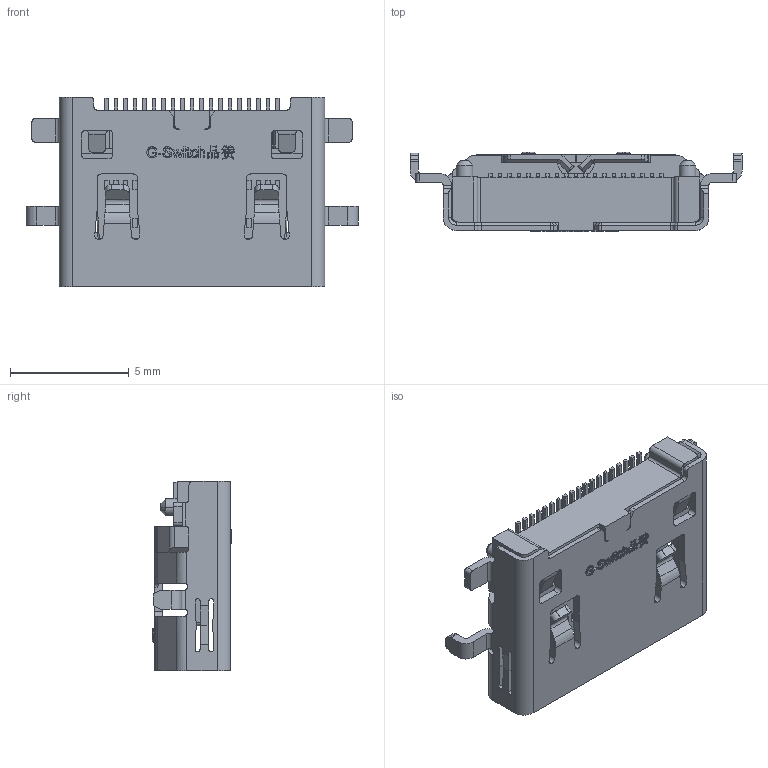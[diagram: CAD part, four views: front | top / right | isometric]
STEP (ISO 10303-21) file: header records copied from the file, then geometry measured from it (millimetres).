
FILE_DESCRIPTION (( 'STEP AP214' ), '1' );
FILE_NAME ('GT-HD006A-XXXGX.stp', '2024-07-01T08:36:00', ( '' ), ( '' ), 'SwSTEP 2.0', 'SolidWorks 2023', '' );
FILE_SCHEMA (( 'AUTOMOTIVE_DESIGN' ));
Length unit declared in the file: millimetre
Products named in the file (1): GT-HD006A-XXXGX
Bounding box: 14 x 3.35 x 8 mm (x, y, z)
Surface area: 620.5 mm2 (no closed solid volume)
Topology: 0 solids, 37 shells, 1998 faces, 5539 edges, 3566 vertices
Faces by surface type: plane 1517, cylinder 327, bspline 94, torus 32, cone 28
Entity records: 72777 total; most frequent: CARTESIAN_POINT 31626, ORIENTED_EDGE 11062, EDGE_CURVE 5539, B_SPLINE_CURVE_WITH_KNOTS 4961, DIRECTION 4388, VERTEX_POINT 3566, EDGE_LOOP 2065, ADVANCED_FACE 1998
